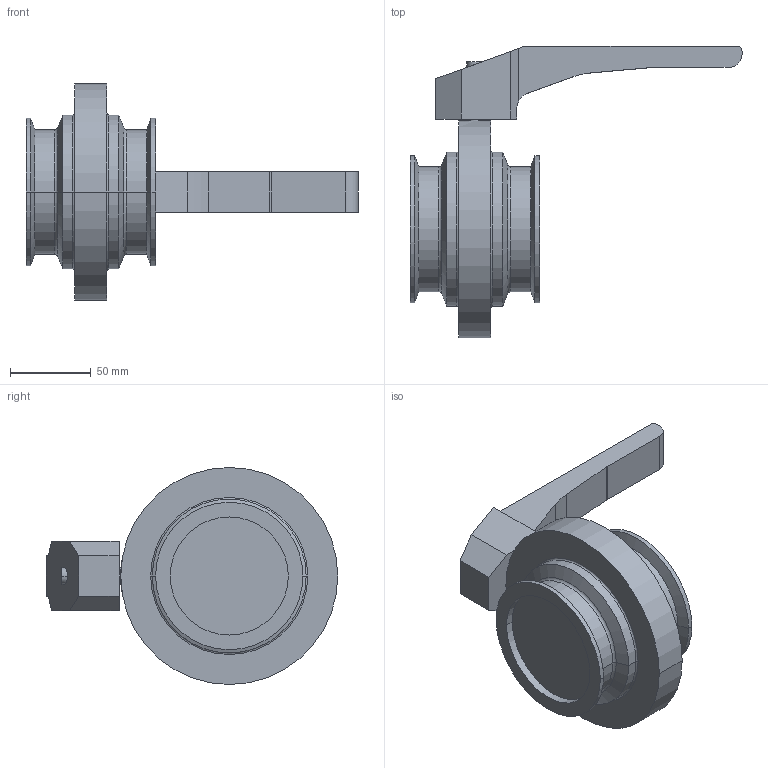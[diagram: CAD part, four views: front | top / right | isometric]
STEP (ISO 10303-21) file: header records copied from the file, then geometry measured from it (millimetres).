
FILE_DESCRIPTION(('OneSpaceDesigner STEP Export'),'2;1');
FILE_NAME('SV1-3zoll-H-12CL-vereint.stp','2007-04-20T11:34:44',(''),(''),'OneSpace Designer STEP processor for AP214 (Solid Model)','OneSpace Modeling 15.00 06-Feb-2007 (C) CoCreate Software GmbH','');
FILE_SCHEMA(('AUTOMOTIVE_DESIGN { 1 0 10303 214 1 1 1 1 }'));
Length unit declared in the file: millimetre
Products named in the file (3): SV1-3zoll-H-12CL; Handhebel-SV-40-100.1.1; SV1-3zoll-H-12CL-vereint
Assembly tree (2 placements, depth 2):
  SV1-3zoll-H-12CL-vereint
    Handhebel-SV-40-100.1.1
    SV1-3zoll-H-12CL
Bounding box: 205 x 180 x 134 mm (x, y, z)
Volume: 706047 mm3; surface area: 80243.5 mm2
Topology: 2 solids, 2 shells, 68 faces, 150 edges, 91 vertices
Faces by surface type: cylinder 27, plane 25, torus 8, cone 8
Entity records: 2122 total; most frequent: CARTESIAN_POINT 672, ORIENTED_EDGE 300, DIRECTION 271, EDGE_CURVE 150, AXIS2_PLACEMENT_3D 97, VERTEX_POINT 91, VECTOR 77, LINE 77
